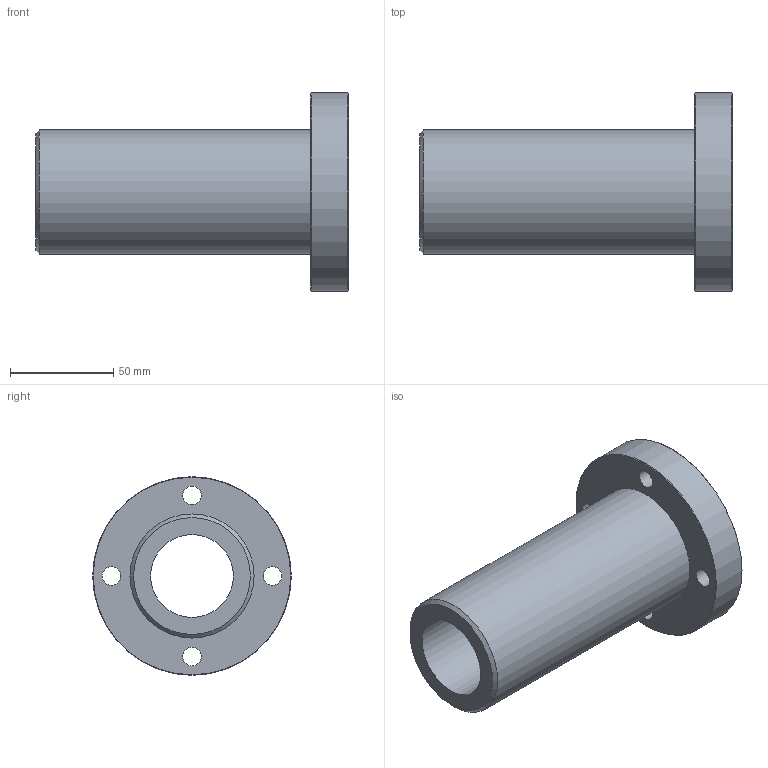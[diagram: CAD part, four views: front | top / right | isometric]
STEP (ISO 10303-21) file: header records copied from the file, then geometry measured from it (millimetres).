
FILE_DESCRIPTION(('STEP AP203'),'1');
FILE_NAME('//192.168.1.1/share/s-4 技術開発/s-4-4_CAD/s-4-4-3_見直し済み/PBC LINEAR修正済み/DFPJ/DFPJ_TOP/DFPJR/DFPJR40.step','2022-03-24T05:34:44',(' '),(' '),'Spatial InterOp 3D',' ',' ');
FILE_SCHEMA(('CONFIG_CONTROL_DESIGN'));
Length unit declared in the file: millimetre
Products named in the file (1): 1
Bounding box: 151 x 96 x 96 mm (x, y, z)
Volume: 308775.3 mm3; surface area: 63185.6 mm2
Topology: 1 solids, 1 shells, 21 faces, 44 edges, 30 vertices
Faces by surface type: cylinder 11, plane 7, cone 3
Full cylindrical faces by diameter (mm): 9 x4, 14 x4, 40 x1, 60 x1, 96 x1
Entity records: 528 total; most frequent: DIRECTION 94, CARTESIAN_POINT 72, EDGE_LOOP 50, ORIENTED_EDGE 50, AXIS2_PLACEMENT_3D 47, FACE_OUTER_BOUND 32, EDGE_CURVE 25, VERTEX_POINT 25
